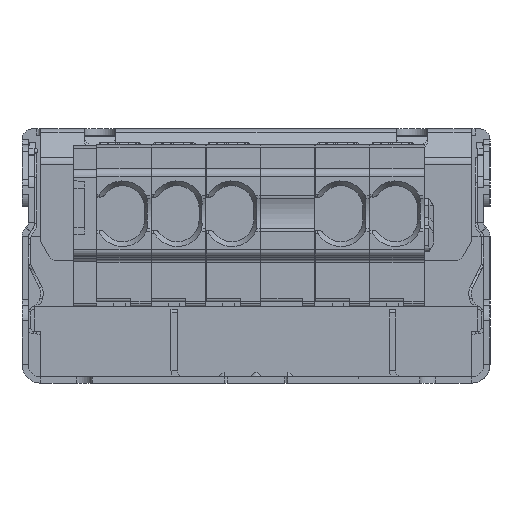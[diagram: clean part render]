
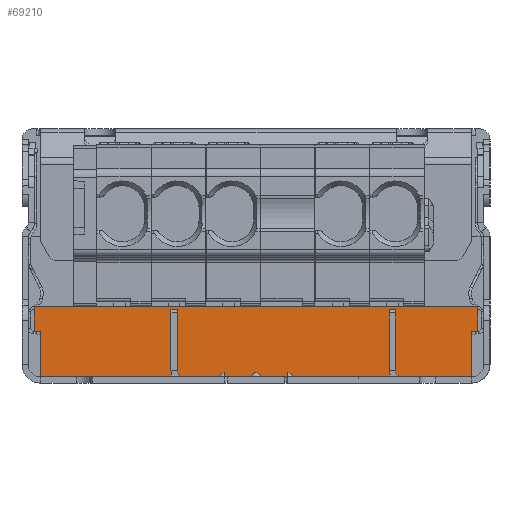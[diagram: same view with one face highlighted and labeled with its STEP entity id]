
A CAD part, left-side view. The second image highlights one B-rep face of the part: STEP entity #69210.
In plain terms, the highlighted planar face has unit normal (-1, 0, 0).
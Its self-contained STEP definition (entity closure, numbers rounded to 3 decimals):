
#2317=DIRECTION('',(0.,1.,0.));
#2318=VECTOR('',#2317,28.4);
#2319=CARTESIAN_POINT('',(9.,-14.2,4.91));
#2320=LINE('',#2319,#2318);
#21996=DIRECTION('',(0.,0.,-1.));
#21997=VECTOR('',#21996,2.91);
#21998=CARTESIAN_POINT('',(9.,13.8,3.31));
#21999=LINE('',#21998,#21997);
#22150=DIRECTION('',(0.,-1.,0.));
#22151=VECTOR('',#22150,0.4);
#22152=CARTESIAN_POINT('',(9.,-13.8,3.31));
#22153=LINE('',#22152,#22151);
#22166=DIRECTION('',(0.,-1.,0.));
#22167=VECTOR('',#22166,0.4);
#22168=CARTESIAN_POINT('',(9.,14.2,3.31));
#22169=LINE('',#22168,#22167);
#22202=DIRECTION('',(0.,0.,-1.));
#22203=VECTOR('',#22202,2.91);
#22204=CARTESIAN_POINT('',(9.,-13.8,3.31));
#22205=LINE('',#22204,#22203);
#23621=DIRECTION('',(0.,0.,1.));
#23622=VECTOR('',#23621,1.6);
#23623=CARTESIAN_POINT('',(9.,-14.2,3.31));
#23624=LINE('',#23623,#23622);
#23633=CARTESIAN_POINT('',(9.,-9.35,0.8));
#23634=DIRECTION('',(-1.,0.,0.));
#23635=DIRECTION('',(0.,1.,0.));
#23636=AXIS2_PLACEMENT_3D('',#23633,#23634,#23635);
#23638=CARTESIAN_POINT('',(9.,4.65,0.8));
#23639=DIRECTION('',(-1.,0.,0.));
#23640=DIRECTION('',(0.,1.,0.));
#23641=AXIS2_PLACEMENT_3D('',#23638,#23639,#23640);
#23643=DIRECTION('',(0.,0.,1.));
#23644=VECTOR('',#23643,1.6);
#23645=CARTESIAN_POINT('',(9.,14.2,3.31));
#23646=LINE('',#23645,#23644);
#23656=DIRECTION('',(0.,0.,1.));
#23657=VECTOR('',#23656,2.45);
#23658=CARTESIAN_POINT('',(9.,-8.55,0.8));
#23659=LINE('',#23658,#23657);
#23686=DIRECTION('',(0.,1.,0.));
#23687=VECTOR('',#23686,0.4);
#23688=CARTESIAN_POINT('',(9.,-8.95,3.25));
#23689=LINE('',#23688,#23687);
#23690=DIRECTION('',(0.,0.,1.));
#23691=VECTOR('',#23690,2.45);
#23692=CARTESIAN_POINT('',(9.,-8.95,0.8));
#23693=LINE('',#23692,#23691);
#23720=CARTESIAN_POINT('',(9.,-9.35,0.8));
#23721=DIRECTION('',(1.,0.,0.));
#23722=DIRECTION('',(0.,0.,-1.));
#23723=AXIS2_PLACEMENT_3D('',#23720,#23721,#23722);
#23838=DIRECTION('',(0.,-1.,0.));
#23839=VECTOR('',#23838,3.45);
#23840=CARTESIAN_POINT('',(9.,13.8,0.4));
#23841=LINE('',#23840,#23839);
#23864=DIRECTION('',(0.,-1.,0.));
#23865=VECTOR('',#23864,8.3);
#23866=CARTESIAN_POINT('',(9.,4.65,0.4));
#23867=LINE('',#23866,#23865);
#23890=DIRECTION('',(0.,-1.,0.));
#23891=VECTOR('',#23890,4.45);
#23892=CARTESIAN_POINT('',(9.,-9.35,0.4));
#23893=LINE('',#23892,#23891);
#24027=DIRECTION('',(0.,1.,0.));
#24028=VECTOR('',#24027,5.7);
#24029=CARTESIAN_POINT('',(9.,-9.35,0.));
#24030=LINE('',#24029,#24028);
#24053=DIRECTION('',(0.,1.,0.));
#24054=VECTOR('',#24053,5.7);
#24055=CARTESIAN_POINT('',(9.,4.65,0.));
#24056=LINE('',#24055,#24054);
#24325=DIRECTION('',(0.,0.,-1.));
#24326=VECTOR('',#24325,0.4);
#24327=CARTESIAN_POINT('',(9.,-3.65,0.4));
#24328=LINE('',#24327,#24326);
#24369=DIRECTION('',(0.,0.,-1.));
#24370=VECTOR('',#24369,0.4);
#24371=CARTESIAN_POINT('',(9.,10.35,0.4));
#24372=LINE('',#24371,#24370);
#24397=DIRECTION('',(0.,0.,1.));
#24398=VECTOR('',#24397,2.45);
#24399=CARTESIAN_POINT('',(9.,5.45,0.8));
#24400=LINE('',#24399,#24398);
#24427=DIRECTION('',(0.,1.,0.));
#24428=VECTOR('',#24427,0.4);
#24429=CARTESIAN_POINT('',(9.,5.05,3.25));
#24430=LINE('',#24429,#24428);
#24431=DIRECTION('',(0.,0.,1.));
#24432=VECTOR('',#24431,2.45);
#24433=CARTESIAN_POINT('',(9.,5.05,0.8));
#24434=LINE('',#24433,#24432);
#24461=CARTESIAN_POINT('',(9.,4.65,0.8));
#24462=DIRECTION('',(1.,0.,0.));
#24463=DIRECTION('',(0.,0.,-1.));
#24464=AXIS2_PLACEMENT_3D('',#24461,#24462,#24463);
#30378=CARTESIAN_POINT('',(9.,-14.2,3.31));
#30379=CARTESIAN_POINT('',(9.,-14.2,4.91));
#30380=VERTEX_POINT('',#30378);
#30381=VERTEX_POINT('',#30379);
#30382=CARTESIAN_POINT('',(9.,14.2,3.31));
#30383=CARTESIAN_POINT('',(9.,14.2,4.91));
#30384=VERTEX_POINT('',#30382);
#30385=VERTEX_POINT('',#30383);
#35848=CARTESIAN_POINT('',(9.,13.8,0.4));
#35849=CARTESIAN_POINT('',(9.,10.35,0.4));
#35850=VERTEX_POINT('',#35848);
#35851=VERTEX_POINT('',#35849);
#35852=CARTESIAN_POINT('',(9.,4.65,0.4));
#35853=CARTESIAN_POINT('',(9.,-3.65,0.4));
#35854=VERTEX_POINT('',#35852);
#35855=VERTEX_POINT('',#35853);
#35856=CARTESIAN_POINT('',(9.,10.35,0.));
#35857=VERTEX_POINT('',#35856);
#35858=CARTESIAN_POINT('',(9.,5.05,3.25));
#35859=CARTESIAN_POINT('',(9.,5.45,3.25));
#35860=VERTEX_POINT('',#35858);
#35861=VERTEX_POINT('',#35859);
#35862=CARTESIAN_POINT('',(9.,5.45,0.8));
#35863=VERTEX_POINT('',#35862);
#35864=CARTESIAN_POINT('',(9.,5.05,0.8));
#35865=VERTEX_POINT('',#35864);
#35998=CARTESIAN_POINT('',(9.,4.65,0.));
#35999=VERTEX_POINT('',#35998);
#36014=CARTESIAN_POINT('',(9.,13.8,3.31));
#36015=VERTEX_POINT('',#36014);
#36024=CARTESIAN_POINT('',(9.,-13.8,3.31));
#36025=CARTESIAN_POINT('',(9.,-13.8,0.4));
#36026=VERTEX_POINT('',#36024);
#36027=VERTEX_POINT('',#36025);
#36032=CARTESIAN_POINT('',(9.,-9.35,0.));
#36033=CARTESIAN_POINT('',(9.,-3.65,0.));
#36034=VERTEX_POINT('',#36032);
#36035=VERTEX_POINT('',#36033);
#36058=CARTESIAN_POINT('',(9.,-9.35,0.4));
#36059=VERTEX_POINT('',#36058);
#36060=CARTESIAN_POINT('',(9.,-8.95,3.25));
#36061=CARTESIAN_POINT('',(9.,-8.55,3.25));
#36062=VERTEX_POINT('',#36060);
#36063=VERTEX_POINT('',#36061);
#36064=CARTESIAN_POINT('',(9.,-8.55,0.8));
#36065=VERTEX_POINT('',#36064);
#36066=CARTESIAN_POINT('',(9.,-8.95,0.8));
#36067=VERTEX_POINT('',#36066);
#69162=CARTESIAN_POINT('',(9.,14.2,3.31));
#69163=DIRECTION('',(-1.,0.,0.));
#69164=DIRECTION('',(0.,-1.,0.));
#69165=AXIS2_PLACEMENT_3D('',#69162,#69163,#69164);
#69166=PLANE('',#69165);
#69168=ORIENTED_EDGE('',*,*,#69167,.T.);
#69170=ORIENTED_EDGE('',*,*,#69169,.T.);
#69172=ORIENTED_EDGE('',*,*,#69171,.F.);
#69174=ORIENTED_EDGE('',*,*,#69173,.F.);
#69176=ORIENTED_EDGE('',*,*,#69175,.T.);
#69178=ORIENTED_EDGE('',*,*,#69177,.T.);
#69180=ORIENTED_EDGE('',*,*,#69179,.T.);
#69182=ORIENTED_EDGE('',*,*,#69181,.F.);
#69184=ORIENTED_EDGE('',*,*,#69183,.T.);
#69186=ORIENTED_EDGE('',*,*,#69185,.T.);
#69188=ORIENTED_EDGE('',*,*,#69187,.F.);
#69190=ORIENTED_EDGE('',*,*,#69189,.F.);
#69191=ORIENTED_EDGE('',*,*,#66975,.F.);
#69192=ORIENTED_EDGE('',*,*,#67171,.F.);
#69193=ORIENTED_EDGE('',*,*,#68777,.T.);
#69194=ORIENTED_EDGE('',*,*,#39426,.F.);
#69195=ORIENTED_EDGE('',*,*,#69140,.F.);
#69196=ORIENTED_EDGE('',*,*,#67149,.F.);
#69197=ORIENTED_EDGE('',*,*,#67216,.T.);
#69199=ORIENTED_EDGE('',*,*,#69198,.F.);
#69201=ORIENTED_EDGE('',*,*,#69200,.T.);
#69203=ORIENTED_EDGE('',*,*,#69202,.T.);
#69205=ORIENTED_EDGE('',*,*,#69204,.T.);
#69207=ORIENTED_EDGE('',*,*,#69206,.F.);
#69208=EDGE_LOOP('',(#69168,#69170,#69172,#69174,#69176,#69178,#69180,#69182,
#69184,#69186,#69188,#69190,#69191,#69192,#69193,#69194,#69195,#69196,#69197,
#69199,#69201,#69203,#69205,#69207));
#69209=FACE_OUTER_BOUND('',#69208,.F.);
#69210=ADVANCED_FACE('',(#69209),#69166,.T.);
#23637=CIRCLE('',#23636,0.8);
#23642=CIRCLE('',#23641,0.8);
#23724=CIRCLE('',#23723,0.4);
#24465=CIRCLE('',#24464,0.4);
#39426=EDGE_CURVE('',#30381,#30385,#2320,.T.);
#66975=EDGE_CURVE('',#36015,#35850,#21999,.T.);
#67149=EDGE_CURVE('',#36026,#30380,#22153,.T.);
#67171=EDGE_CURVE('',#30384,#36015,#22169,.T.);
#67216=EDGE_CURVE('',#36026,#36027,#22205,.T.);
#68777=EDGE_CURVE('',#30384,#30385,#23646,.T.);
#69140=EDGE_CURVE('',#30380,#30381,#23624,.T.);
#69167=EDGE_CURVE('',#36065,#36034,#23637,.T.);
#69169=EDGE_CURVE('',#36034,#36035,#24030,.T.);
#69171=EDGE_CURVE('',#35855,#36035,#24328,.T.);
#69173=EDGE_CURVE('',#35854,#35855,#23867,.T.);
#69175=EDGE_CURVE('',#35854,#35865,#24465,.T.);
#69177=EDGE_CURVE('',#35865,#35860,#24434,.T.);
#69179=EDGE_CURVE('',#35860,#35861,#24430,.T.);
#69181=EDGE_CURVE('',#35863,#35861,#24400,.T.);
#69183=EDGE_CURVE('',#35863,#35999,#23642,.T.);
#69185=EDGE_CURVE('',#35999,#35857,#24056,.T.);
#69187=EDGE_CURVE('',#35851,#35857,#24372,.T.);
#69189=EDGE_CURVE('',#35850,#35851,#23841,.T.);
#69198=EDGE_CURVE('',#36059,#36027,#23893,.T.);
#69200=EDGE_CURVE('',#36059,#36067,#23724,.T.);
#69202=EDGE_CURVE('',#36067,#36062,#23693,.T.);
#69204=EDGE_CURVE('',#36062,#36063,#23689,.T.);
#69206=EDGE_CURVE('',#36065,#36063,#23659,.T.);
